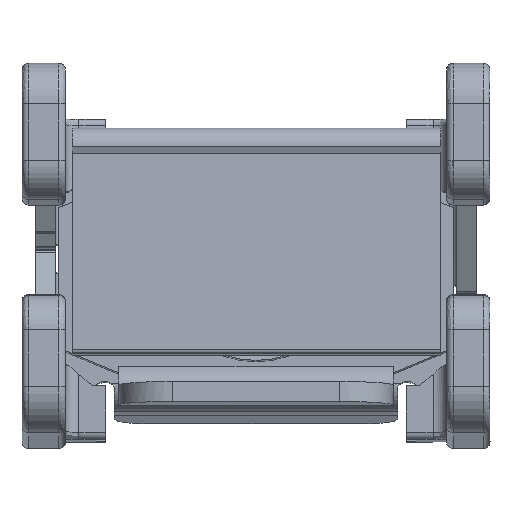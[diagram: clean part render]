
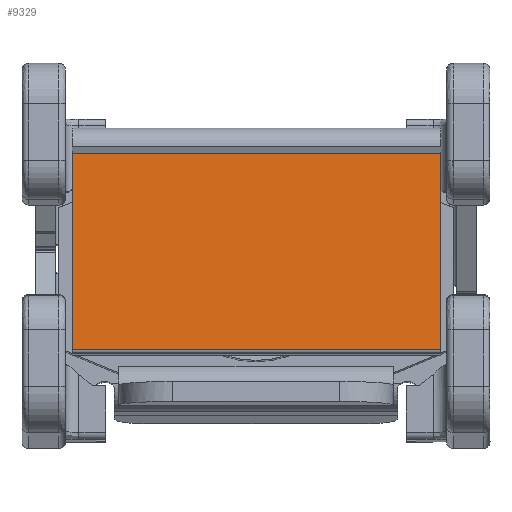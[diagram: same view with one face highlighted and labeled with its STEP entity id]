
A CAD part, front view. The second image highlights one B-rep face of the part: STEP entity #9329.
In plain terms, the highlighted planar face has unit normal (0, -0.998, 0.07).
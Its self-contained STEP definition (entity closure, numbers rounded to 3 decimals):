
#389 = CARTESIAN_POINT ( 'NONE',  ( 83.442, 29.715, -91.411 ) ) ;
#2352 = LINE ( 'NONE', #16098, #4823 ) ;
#2491 = ORIENTED_EDGE ( 'NONE', *, *, #15377, .T. ) ;
#3161 = EDGE_CURVE ( 'NONE', #16423, #19352, #26035, .T. ) ;
#4823 = VECTOR ( 'NONE', #9256, 1000. ) ;
#4965 = CARTESIAN_POINT ( 'NONE',  ( 83.444, 27.657, -120.839 ) ) ;
#5016 = LINE ( 'NONE', #20425, #14925 ) ;
#5553 = EDGE_LOOP ( 'NONE', ( #18710, #2491, #25507, #16852 ) ) ;
#6931 = VERTEX_POINT ( 'NONE', #4965 ) ;
#8689 = CARTESIAN_POINT ( 'NONE',  ( 28.342, 29.715, -91.415 ) ) ;
#9256 = DIRECTION ( 'NONE',  ( 1., 0., 0. ) ) ;
#9329 = ADVANCED_FACE ( 'NONE', ( #22587 ), #12412, .T. ) ;
#10019 = LINE ( 'NONE', #389, #13599 ) ;
#10020 = VECTOR ( 'NONE', #13449, 1000. ) ;
#11331 = CARTESIAN_POINT ( 'NONE',  ( 28.344, 27.657, -120.843 ) ) ;
#12412 = PLANE ( 'NONE',  #19844 ) ;
#12508 = CARTESIAN_POINT ( 'NONE',  ( 83.444, 27.623, -121.338 ) ) ;
#13140 = CARTESIAN_POINT ( 'NONE',  ( 28.342, 29.715, -91.415 ) ) ;
#13449 = DIRECTION ( 'NONE',  ( 0., -0.07, -0.998 ) ) ;
#13599 = VECTOR ( 'NONE', #16235, 1000. ) ;
#14710 = DIRECTION ( 'NONE',  ( 0., -0.998, 0.07 ) ) ;
#14925 = VECTOR ( 'NONE', #25038, 1000. ) ;
#15377 = EDGE_CURVE ( 'NONE', #19352, #6931, #2352, .T. ) ;
#16098 = CARTESIAN_POINT ( 'NONE',  ( 28.344, 27.657, -120.843 ) ) ;
#16235 = DIRECTION ( 'NONE',  ( -1., 0., 0. ) ) ;
#16423 = VERTEX_POINT ( 'NONE', #13140 ) ;
#16852 = ORIENTED_EDGE ( 'NONE', *, *, #24310, .T. ) ;
#17707 = VERTEX_POINT ( 'NONE', #18766 ) ;
#18710 = ORIENTED_EDGE ( 'NONE', *, *, #3161, .T. ) ;
#18766 = CARTESIAN_POINT ( 'NONE',  ( 83.442, 29.715, -91.411 ) ) ;
#19352 = VERTEX_POINT ( 'NONE', #11331 ) ;
#19844 = AXIS2_PLACEMENT_3D ( 'NONE', #12508, #14710, #25748 ) ;
#20425 = CARTESIAN_POINT ( 'NONE',  ( 83.444, 27.657, -120.839 ) ) ;
#22587 = FACE_OUTER_BOUND ( 'NONE', #5553, .T. ) ;
#24310 = EDGE_CURVE ( 'NONE', #17707, #16423, #10019, .T. ) ;
#25038 = DIRECTION ( 'NONE',  ( 0., 0.07, 0.998 ) ) ;
#25457 = EDGE_CURVE ( 'NONE', #6931, #17707, #5016, .T. ) ;
#25507 = ORIENTED_EDGE ( 'NONE', *, *, #25457, .T. ) ;
#25748 = DIRECTION ( 'NONE',  ( 0., -0.07, -0.998 ) ) ;
#26035 = LINE ( 'NONE', #8689, #10020 ) ;
